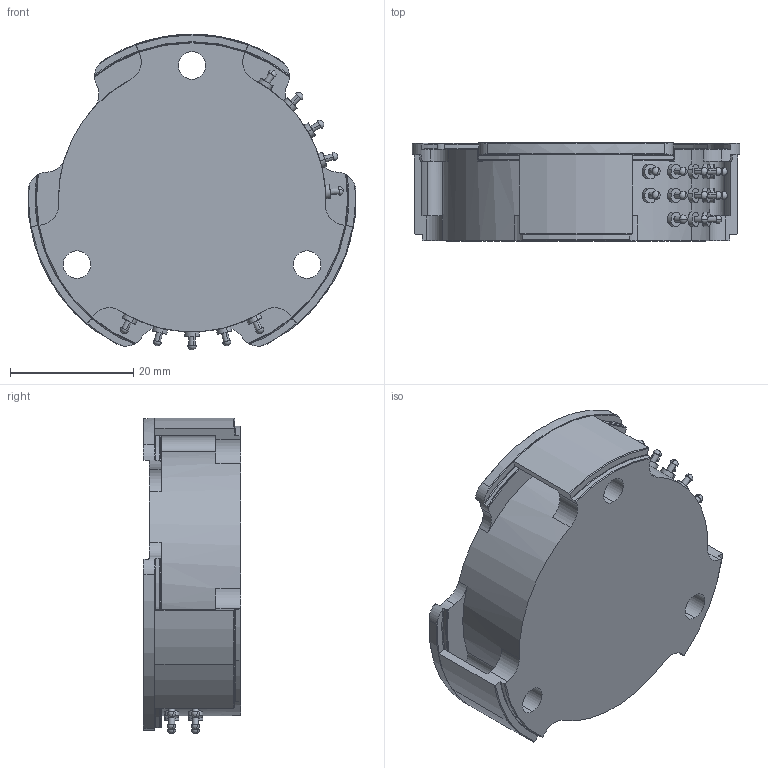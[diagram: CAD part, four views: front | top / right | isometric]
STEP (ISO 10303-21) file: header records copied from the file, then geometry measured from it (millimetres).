
FILE_DESCRIPTION (( 'STEP AP203' ), '1' );
FILE_NAME ('C627009A-2CH.STEP', '2017-06-29T19:05:00', ( '' ), ( '' ), 'SwSTEP 2.0', 'SolidWorks 2014', '' );
FILE_SCHEMA (( 'CONFIG_CONTROL_DESIGN' ));
Length unit declared in the file: inch
Products named in the file (1): C627009A-2CH
Bounding box: 53.31 x 15.88 x 51.32 mm (x, y, z)
Volume: 24738.1 mm3; surface area: 8372.4 mm2
Topology: 1 solids, 1 shells, 367 faces, 1000 edges, 655 vertices
Faces by surface type: cylinder 182, plane 87, sphere 46, cone 31, torus 21
Entity records: 12262 total; most frequent: CARTESIAN_POINT 3173, DIRECTION 2013, ORIENTED_EDGE 1816, EDGE_CURVE 908, AXIS2_PLACEMENT_3D 873, VERTEX_POINT 609, CIRCLE 505, EDGE_LOOP 439
